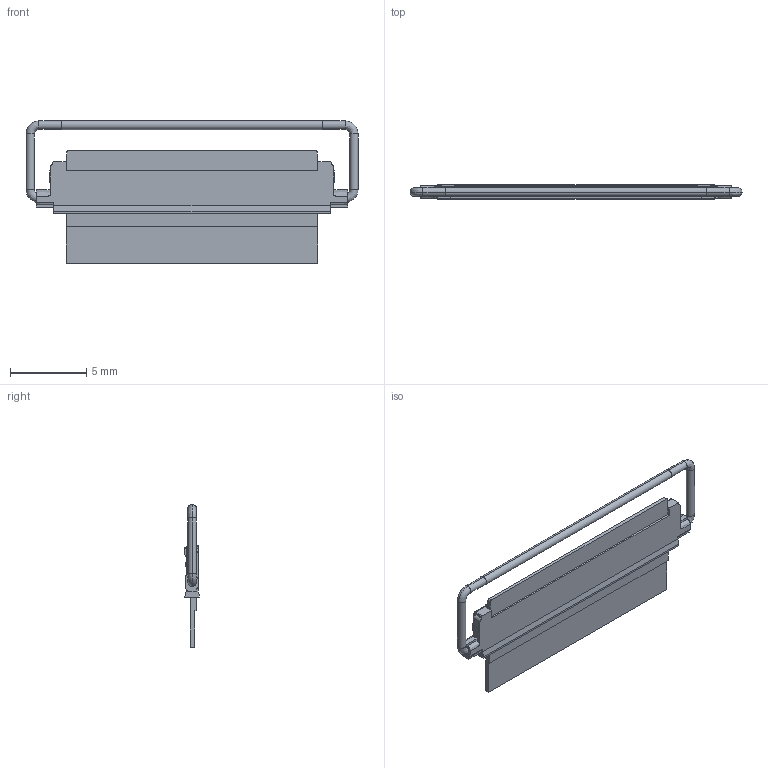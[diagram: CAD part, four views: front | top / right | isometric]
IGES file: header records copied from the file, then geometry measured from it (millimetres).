
Start section: SolidWorks IGES file using analytic representation for surfaces
Global section: file name: C:\Users\09466\Desktop\CABLINE-CAF HP—p\20858-040T-01_FPC ASS'Y with.IGS; native system: SolidWorks 2023; preprocessor: SolidWorks 2023; author: 09466; date: 231101.131748; units: millimetre
Bounding box: 21.75 x 0.95 x 9.35 mm (x, y, z)
Surface area: 377.5 mm2 (no closed solid volume)
Topology: 0 solids, 0 shells, 355 faces, 2274 edges, 2274 vertices
Faces by surface type: bspline 276, revolution 79
